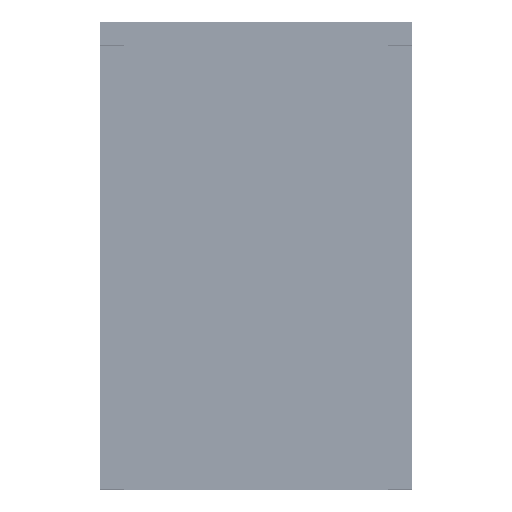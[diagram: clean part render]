
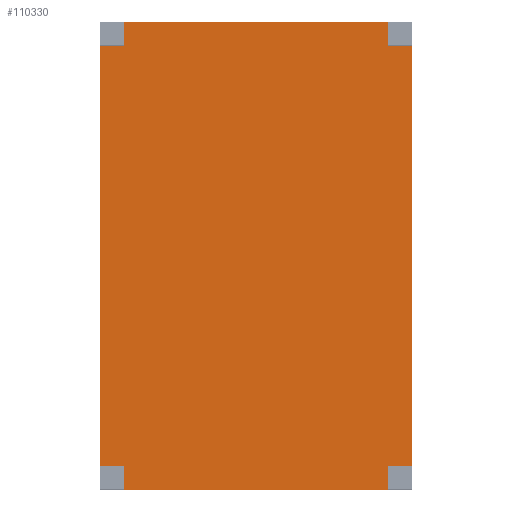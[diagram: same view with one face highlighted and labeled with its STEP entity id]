
A CAD part, top view. The second image highlights one B-rep face of the part: STEP entity #110330.
In plain terms, the highlighted planar face has unit normal (0, 0, 1) as drawn and (0, -1, 0) by its records, which use the part's own axes.
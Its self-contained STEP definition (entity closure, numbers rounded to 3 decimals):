
#11679=FACE_OUTER_BOUND('',#20473,.T.);
#20473=EDGE_LOOP('',(#80106,#80107,#80108,#80109,#80110,#80111,#80112,#80113,
#80114,#80115,#80116,#80117));
#36635=LINE('',#182273,#43685);
#36638=LINE('',#182279,#43688);
#36641=LINE('',#182285,#43691);
#36644=LINE('',#182291,#43694);
#36647=LINE('',#182297,#43697);
#36650=LINE('',#182303,#43700);
#36653=LINE('',#182309,#43703);
#36656=LINE('',#182315,#43706);
#36659=LINE('',#182321,#43709);
#36662=LINE('',#182327,#43712);
#36665=LINE('',#182333,#43715);
#36668=LINE('',#182337,#43718);
#43685=VECTOR('',#141544,10.);
#43688=VECTOR('',#141549,10.);
#43691=VECTOR('',#141554,10.);
#43694=VECTOR('',#141559,10.);
#43697=VECTOR('',#141564,10.);
#43700=VECTOR('',#141569,10.);
#43703=VECTOR('',#141574,10.);
#43706=VECTOR('',#141579,10.);
#43709=VECTOR('',#141584,10.);
#43712=VECTOR('',#141589,10.);
#43715=VECTOR('',#141594,10.);
#43718=VECTOR('',#141599,10.);
#50857=VERTEX_POINT('',#182270);
#50858=VERTEX_POINT('',#182272);
#50860=VERTEX_POINT('',#182278);
#50862=VERTEX_POINT('',#182284);
#50864=VERTEX_POINT('',#182290);
#50866=VERTEX_POINT('',#182296);
#50868=VERTEX_POINT('',#182302);
#50870=VERTEX_POINT('',#182308);
#50872=VERTEX_POINT('',#182314);
#50874=VERTEX_POINT('',#182320);
#50876=VERTEX_POINT('',#182326);
#50878=VERTEX_POINT('',#182332);
#61830=EDGE_CURVE('',#50858,#50857,#36635,.T.);
#61833=EDGE_CURVE('',#50860,#50858,#36638,.T.);
#61836=EDGE_CURVE('',#50862,#50860,#36641,.T.);
#61839=EDGE_CURVE('',#50864,#50862,#36644,.T.);
#61842=EDGE_CURVE('',#50866,#50864,#36647,.T.);
#61845=EDGE_CURVE('',#50868,#50866,#36650,.T.);
#61848=EDGE_CURVE('',#50870,#50868,#36653,.T.);
#61851=EDGE_CURVE('',#50872,#50870,#36656,.T.);
#61854=EDGE_CURVE('',#50874,#50872,#36659,.T.);
#61857=EDGE_CURVE('',#50876,#50874,#36662,.T.);
#61860=EDGE_CURVE('',#50878,#50876,#36665,.T.);
#61863=EDGE_CURVE('',#50857,#50878,#36668,.T.);
#80106=ORIENTED_EDGE('',*,*,#61863,.T.);
#80107=ORIENTED_EDGE('',*,*,#61860,.T.);
#80108=ORIENTED_EDGE('',*,*,#61857,.T.);
#80109=ORIENTED_EDGE('',*,*,#61854,.T.);
#80110=ORIENTED_EDGE('',*,*,#61851,.T.);
#80111=ORIENTED_EDGE('',*,*,#61848,.T.);
#80112=ORIENTED_EDGE('',*,*,#61845,.T.);
#80113=ORIENTED_EDGE('',*,*,#61842,.T.);
#80114=ORIENTED_EDGE('',*,*,#61839,.T.);
#80115=ORIENTED_EDGE('',*,*,#61836,.T.);
#80116=ORIENTED_EDGE('',*,*,#61833,.T.);
#80117=ORIENTED_EDGE('',*,*,#61830,.T.);
#105130=PLANE('',#122394);
#110330=ADVANCED_FACE('',(#11679),#105130,.T.);
#122394=AXIS2_PLACEMENT_3D('',#182338,#141600,#141601);
#141544=DIRECTION('',(1.,0.,0.));
#141549=DIRECTION('',(0.,0.,-1.));
#141554=DIRECTION('',(-1.,0.,0.));
#141559=DIRECTION('',(0.,0.,-1.));
#141564=DIRECTION('',(-1.,0.,0.));
#141569=DIRECTION('',(0.,0.,1.));
#141574=DIRECTION('',(-1.,0.,0.));
#141579=DIRECTION('',(0.,0.,1.));
#141584=DIRECTION('',(1.,0.,0.));
#141589=DIRECTION('',(0.,0.,1.));
#141594=DIRECTION('',(1.,0.,0.));
#141599=DIRECTION('',(0.,0.,-1.));
#141600=DIRECTION('center_axis',(0.,-1.,0.));
#141601=DIRECTION('ref_axis',(0.,0.,-1.));
#182270=CARTESIAN_POINT('',(-270.,-315.,-170.));
#182272=CARTESIAN_POINT('',(-300.,-315.,-170.));
#182273=CARTESIAN_POINT('',(-300.,-315.,-170.));
#182278=CARTESIAN_POINT('',(-300.,-315.,170.));
#182279=CARTESIAN_POINT('',(-300.,-315.,200.));
#182284=CARTESIAN_POINT('',(-270.,-315.,170.));
#182285=CARTESIAN_POINT('',(-270.,-315.,170.));
#182290=CARTESIAN_POINT('',(-270.,-315.,200.));
#182291=CARTESIAN_POINT('',(-270.,-315.,200.));
#182296=CARTESIAN_POINT('',(270.,-315.,200.));
#182297=CARTESIAN_POINT('',(300.,-315.,200.));
#182302=CARTESIAN_POINT('',(270.,-315.,170.));
#182303=CARTESIAN_POINT('',(270.,-315.,170.));
#182308=CARTESIAN_POINT('',(300.,-315.,170.));
#182309=CARTESIAN_POINT('',(300.,-315.,170.));
#182314=CARTESIAN_POINT('',(300.,-315.,-170.));
#182315=CARTESIAN_POINT('',(300.,-315.,-200.));
#182320=CARTESIAN_POINT('',(270.,-315.,-170.));
#182321=CARTESIAN_POINT('',(270.,-315.,-170.));
#182326=CARTESIAN_POINT('',(270.,-315.,-200.));
#182327=CARTESIAN_POINT('',(270.,-315.,-200.));
#182332=CARTESIAN_POINT('',(-270.,-315.,-200.));
#182333=CARTESIAN_POINT('',(-300.,-315.,-200.));
#182337=CARTESIAN_POINT('',(-270.,-315.,-170.));
#182338=CARTESIAN_POINT('Origin',(0.,-315.,0.));
